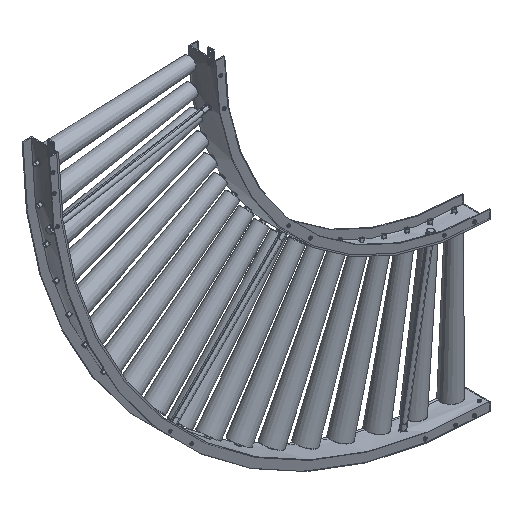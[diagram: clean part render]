
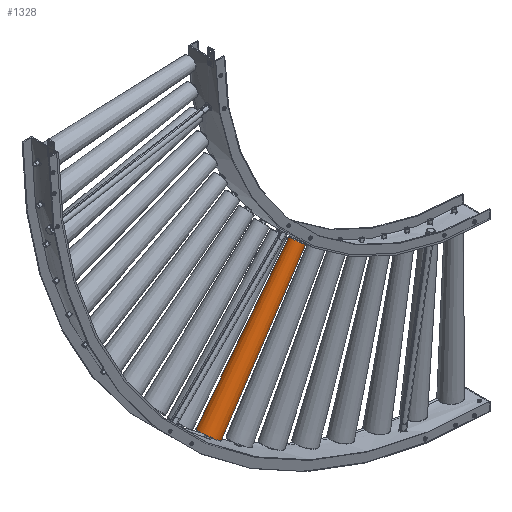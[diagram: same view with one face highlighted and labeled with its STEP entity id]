
A CAD part, isometric view. The second image highlights one B-rep face of the part: STEP entity #1328.
In plain terms, the highlighted conical face has half-angle 1.277 degrees and reference radius 32.5 mm.
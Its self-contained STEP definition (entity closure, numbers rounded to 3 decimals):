
#1041 = VECTOR ( 'NONE', #12435, 1000. ) ;
#1328 = ADVANCED_FACE ( 'NONE', ( #8566 ), #8833, .T. ) ;
#1621 = CARTESIAN_POINT ( 'NONE',  ( -666.407, 75.337, -1023.293 ) ) ;
#3477 = ORIENTED_EDGE ( 'NONE', *, *, #17851, .F. ) ;
#3761 = EDGE_CURVE ( 'NONE', #17194, #19789, #27703, .T. ) ;
#4341 = VERTEX_POINT ( 'NONE', #1621 ) ;
#5946 = CARTESIAN_POINT ( 'NONE',  ( -684.018, 100.106, -1011.796 ) ) ;
#7401 = VERTEX_POINT ( 'NONE', #11580 ) ;
#7462 = CARTESIAN_POINT ( 'NONE',  ( -391.494, 128.045, -607.904 ) ) ;
#8566 = FACE_OUTER_BOUND ( 'NONE', #11865, .T. ) ;
#8806 = DIRECTION ( 'NONE',  ( 0.523, -0.763, -0.379 ) ) ;
#8833 = CONICAL_SURFACE ( 'NONE', #26094, 32.5, 0.022 ) ;
#9367 = LINE ( 'NONE', #26227, #10543 ) ;
#10543 = VECTOR ( 'NONE', #13874, 1000. ) ;
#11580 = CARTESIAN_POINT ( 'NONE',  ( -700.384, 124.922, -998.678 ) ) ;
#11865 = EDGE_LOOP ( 'NONE', ( #3477, #25132, #23612, #19392 ) ) ;
#11907 = DIRECTION ( 'NONE',  ( 0.609, 0.023, 0.793 ) ) ;
#12435 = DIRECTION ( 'NONE',  ( -0.597, -0.04, -0.801 ) ) ;
#12562 = DIRECTION ( 'NONE',  ( -0.609, -0.023, -0.793 ) ) ;
#13874 = DIRECTION ( 'NONE',  ( -0.62, -0.006, -0.784 ) ) ;
#14389 = AXIS2_PLACEMENT_3D ( 'NONE', #29245, #12562, #27068 ) ;
#14734 = LINE ( 'NONE', #17196, #1041 ) ;
#15387 = DIRECTION ( 'NONE',  ( -0.523, 0.763, 0.379 ) ) ;
#15673 = DIRECTION ( 'NONE',  ( -0.609, -0.023, -0.793 ) ) ;
#17194 = VERTEX_POINT ( 'NONE', #25525 ) ;
#17196 = CARTESIAN_POINT ( 'NONE',  ( -667.017, 75.296, -1024.113 ) ) ;
#17851 = EDGE_CURVE ( 'NONE', #17194, #4341, #14734, .T. ) ;
#19262 = CIRCLE ( 'NONE', #29140, 32.477 ) ;
#19392 = ORIENTED_EDGE ( 'NONE', *, *, #30436, .T. ) ;
#19789 = VERTEX_POINT ( 'NONE', #7462 ) ;
#21171 = CARTESIAN_POINT ( 'NONE',  ( -683.396, 100.13, -1010.985 ) ) ;
#22735 = EDGE_CURVE ( 'NONE', #19789, #7401, #9367, .T. ) ;
#23612 = ORIENTED_EDGE ( 'NONE', *, *, #22735, .T. ) ;
#25132 = ORIENTED_EDGE ( 'NONE', *, *, #3761, .T. ) ;
#25525 = CARTESIAN_POINT ( 'NONE',  ( -369.135, 95.415, -624.102 ) ) ;
#26094 = AXIS2_PLACEMENT_3D ( 'NONE', #5946, #15673, #15387 ) ;
#26227 = CARTESIAN_POINT ( 'NONE',  ( -701.018, 124.916, -999.48 ) ) ;
#27068 = DIRECTION ( 'NONE',  ( 0.523, -0.763, -0.379 ) ) ;
#27703 = CIRCLE ( 'NONE', #14389, 21.372 ) ;
#29140 = AXIS2_PLACEMENT_3D ( 'NONE', #21171, #11907, #8806 ) ;
#29245 = CARTESIAN_POINT ( 'NONE',  ( -380.315, 111.73, -616.003 ) ) ;
#30436 = EDGE_CURVE ( 'NONE', #7401, #4341, #19262, .T. ) ;
